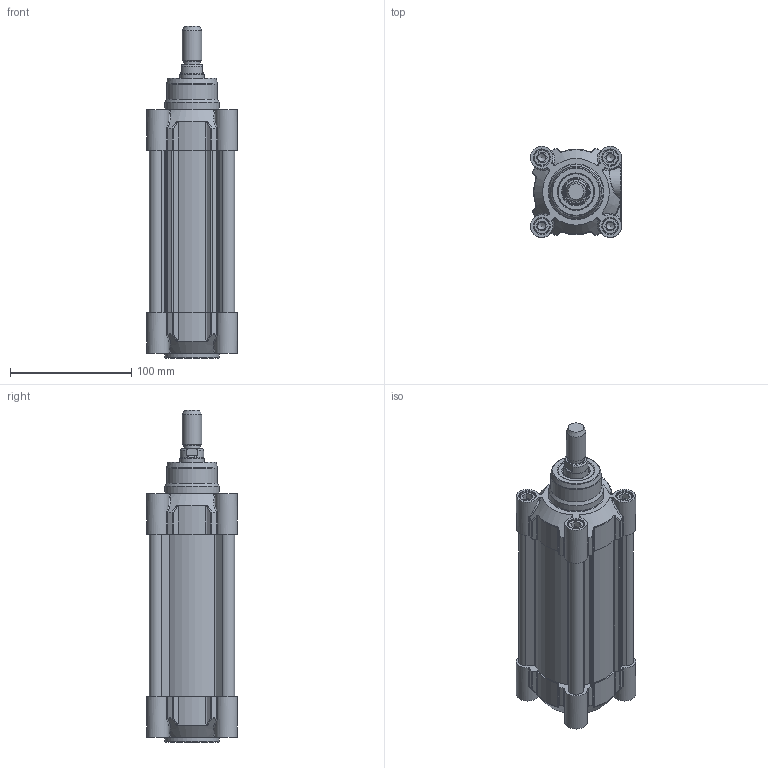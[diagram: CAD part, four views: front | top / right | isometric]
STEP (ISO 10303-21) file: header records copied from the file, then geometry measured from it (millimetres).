
FILE_DESCRIPTION(/* description */ ('CILINDRO D.E. MAGNETICO AMMORTIZZATO ISO 15552'),/* implementation_level */ '2;1');
FILE_NAME(/* name */ 'T:\Archivio Inventor\- 00 NUOVI STP PER SITO CON STELO CHE SI MUOVE\SERIE H - U\SERIE HDM\HDM063 - TUBO NUOVO\HDM063.080.GS.M.stp',/* time_stamp */ '2018-07-30T14:34:02+02:00',/* author */ ('carlo.corazza'),/* organization */ (''),/* preprocessor_version */ 'ST-DEVELOPER v16.5',/* originating_system */ 'Autodesk Inventor 2017',/* authorisation */ '');
FILE_SCHEMA (('AUTOMOTIVE_DESIGN { 1 0 10303 214 3 1 1 }'));
Length unit declared in the file: millimetre
Products named in the file (5): HDM063.080.GS.M; TP; TA; STELO-080; CORPO-080
Assembly tree (4 placements, depth 2):
  HDM063.080.GS.M
    TP
    TA
    STELO-080
    CORPO-080
Bounding box: 75 x 75 x 274 mm (x, y, z)
Volume: 471560.9 mm3; surface area: 196891.4 mm2
Topology: 4 solids, 27 shells, 1241 faces, 2936 edges, 1818 vertices
Faces by surface type: plane 368, cylinder 297, bspline 288, torus 108, cone 106, sphere 74
Full cylindrical faces by diameter (mm): 3 x2, 3.4 x2, 4.8 x2, 5.25 x2, 6.647 x8, 8 x8, 8.3 x12, 9.8 x4, 9.9 x2, 10 x6, 12 x3, 13 x8, 13.3 x8, 13.5 x1, 14.95 x2, 16 x1, 19.5 x1, 20 x1, 20.8 x1, 20.847 x1, 24 x1, 26 x2, 30 x3, 42 x1, 45 x2, 63 x1
Entity records: 40768 total; most frequent: CARTESIAN_POINT 13071, ORIENTED_EDGE 5326, DIRECTION 5100, EDGE_CURVE 2663, AXIS2_PLACEMENT_3D 2037, VERTEX_POINT 1763, EDGE_LOOP 1576, STYLED_ITEM 1245
